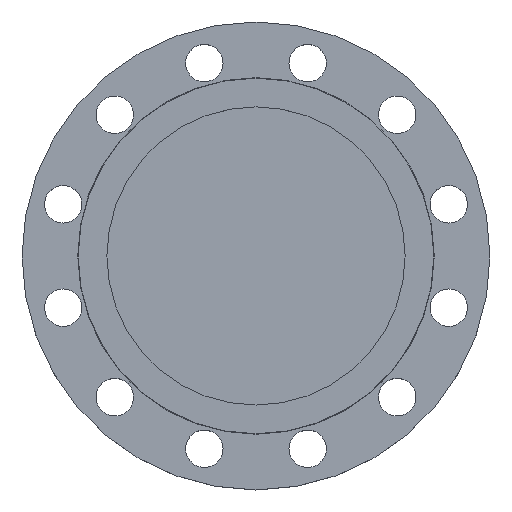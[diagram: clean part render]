
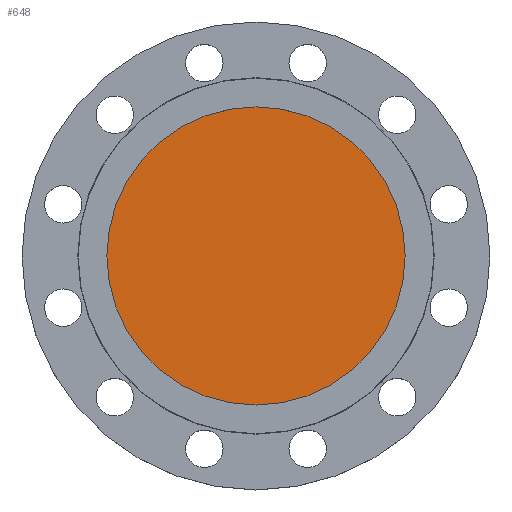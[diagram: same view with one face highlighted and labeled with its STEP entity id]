
A CAD part, top view. The second image highlights one B-rep face of the part: STEP entity #648.
In plain terms, the highlighted planar face has unit normal (0, 0, 1).
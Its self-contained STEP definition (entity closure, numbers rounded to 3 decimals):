
#52 = CARTESIAN_POINT ( 'NONE',  ( -119.5, 0., -5. ) ) ;
#178 = EDGE_CURVE ( 'NONE', #1204, #1298, #1071, .T. ) ;
#186 = CARTESIAN_POINT ( 'NONE',  ( 119.5, 0., -5. ) ) ;
#330 = AXIS2_PLACEMENT_3D ( 'NONE', #857, #837, #848 ) ;
#463 = CIRCLE ( 'NONE', #1145, 119.5 ) ;
#490 = DIRECTION ( 'NONE',  ( -1., 0., 0. ) ) ;
#491 = DIRECTION ( 'NONE',  ( 0., 0., -1. ) ) ;
#492 = CARTESIAN_POINT ( 'NONE',  ( 0., 0., -5. ) ) ;
#494 = AXIS2_PLACEMENT_3D ( 'NONE', #596, #595, #594 ) ;
#594 = DIRECTION ( 'NONE',  ( 1., 0., 0. ) ) ;
#595 = DIRECTION ( 'NONE',  ( 0., 0., 1. ) ) ;
#596 = CARTESIAN_POINT ( 'NONE',  ( 0., 0., -5. ) ) ;
#597 = PLANE ( 'NONE',  #494 ) ;
#599 = FACE_OUTER_BOUND ( 'NONE', #1320, .T. ) ;
#648 = ADVANCED_FACE ( 'NONE', ( #599 ), #597, .T. ) ;
#837 = DIRECTION ( 'NONE',  ( 0., 0., -1. ) ) ;
#844 = EDGE_CURVE ( 'NONE', #1298, #1204, #463, .T. ) ;
#848 = DIRECTION ( 'NONE',  ( -1., 0., 0. ) ) ;
#857 = CARTESIAN_POINT ( 'NONE',  ( 0., 0., -5. ) ) ;
#969 = ORIENTED_EDGE ( 'NONE', *, *, #844, .F. ) ;
#971 = ORIENTED_EDGE ( 'NONE', *, *, #178, .F. ) ;
#1071 = CIRCLE ( 'NONE', #330, 119.5 ) ;
#1145 = AXIS2_PLACEMENT_3D ( 'NONE', #492, #491, #490 ) ;
#1204 = VERTEX_POINT ( 'NONE', #186 ) ;
#1298 = VERTEX_POINT ( 'NONE', #52 ) ;
#1320 = EDGE_LOOP ( 'NONE', ( #969, #971 ) ) ;
